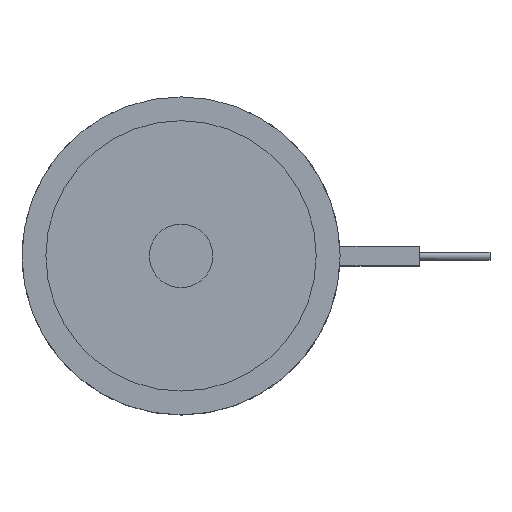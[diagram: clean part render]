
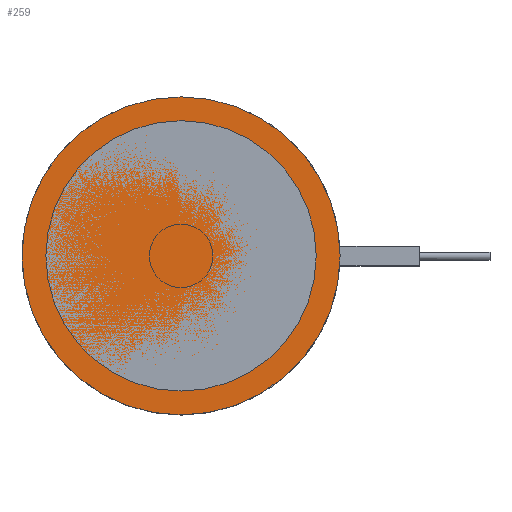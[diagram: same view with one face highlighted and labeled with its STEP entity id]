
A CAD part, top view. The second image highlights one B-rep face of the part: STEP entity #259.
In plain terms, the highlighted planar face has unit normal (0, 0, 1).
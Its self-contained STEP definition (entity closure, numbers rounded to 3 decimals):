
#259=ADVANCED_FACE('',(#341),#296,.F.);
#296=PLANE('',#1145);
#341=FACE_OUTER_BOUND('',#433,.T.);
#433=EDGE_LOOP('',(#726));
#503=CIRCLE('',#1144,20.);
#726=ORIENTED_EDGE('',*,*,#939,.F.);
#823=VERTEX_POINT('',#1920);
#939=EDGE_CURVE('',#823,#823,#503,.T.);
#1144=AXIS2_PLACEMENT_3D('',#1919,#1428,#1429);
#1145=AXIS2_PLACEMENT_3D('',#1921,#1430,#1431);
#1428=DIRECTION('',(0.,0.,-1.));
#1429=DIRECTION('',(-1.,0.,0.));
#1430=DIRECTION('',(0.,0.,-1.));
#1431=DIRECTION('',(-1.,0.,0.));
#1919=CARTESIAN_POINT('',(0.,0.,0.));
#1920=CARTESIAN_POINT('',(-20.,0.,0.));
#1921=CARTESIAN_POINT('',(0.,0.,0.));
